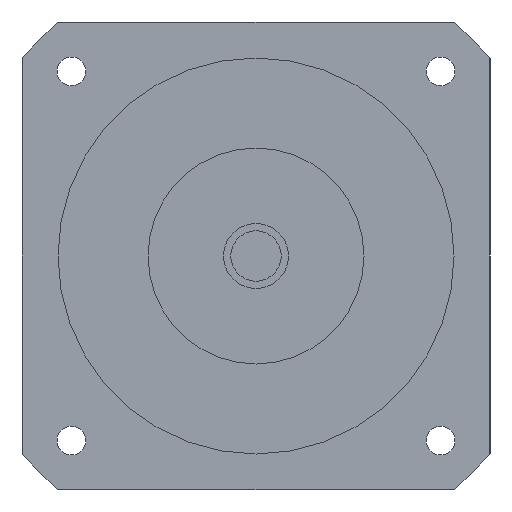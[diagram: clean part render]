
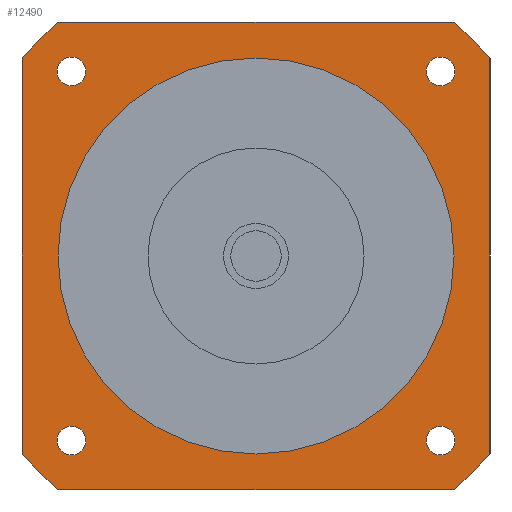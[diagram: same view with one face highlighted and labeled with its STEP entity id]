
A CAD part, left-side view. The second image highlights one B-rep face of the part: STEP entity #12490.
In plain terms, the highlighted planar face has unit normal (-1, 0, 0) as drawn and (0, 0, -1) by its records, which use the part's own axes.
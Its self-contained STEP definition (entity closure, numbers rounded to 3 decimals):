
#8890=CARTESIAN_POINT('',(47.265,-51.265,-51.));
#8900=VERTEX_POINT('',#8890);
#8930=CARTESIAN_POINT('',(51.265,-51.265,-51.));
#8940=DIRECTION('',(0.,0.,-1.));
#8950=DIRECTION('',(1.,0.,0.));
#8960=AXIS2_PLACEMENT_3D('',#8930,#8940,#8950);
#8970=CIRCLE('',#8960,4.);
#8980=CARTESIAN_POINT('',(55.265,-51.265,-51.));
#8990=VERTEX_POINT('',#8980);
#9000=EDGE_CURVE('',#8990,#8900,#8970,.T.);
#9240=CARTESIAN_POINT('',(65.,-54.772,-51.));
#9250=VERTEX_POINT('',#9240);
#9300=CARTESIAN_POINT('',(0.,0.,-51.
));
#9310=DIRECTION('',(0.,0.,-1.));
#9320=DIRECTION('',(1.,0.,0.));
#9330=AXIS2_PLACEMENT_3D('',#9300,#9310,#9320);
#9340=CIRCLE('',#9330,85.);
#9350=CARTESIAN_POINT('',(54.772,-65.,-51.));
#9360=VERTEX_POINT('',#9350);
#9370=EDGE_CURVE('',#9250,#9360,#9340,.T.);
#11020=CARTESIAN_POINT('',(-51.265,-47.265,-51.));
#11030=VERTEX_POINT('',#11020);
#11060=CARTESIAN_POINT('',(-51.265,-51.265,-51.));
#11070=DIRECTION('',(0.,0.,-1.));
#11080=DIRECTION('',(0.,-1.,0.));
#11090=AXIS2_PLACEMENT_3D('',#11060,#11070,#11080);
#11100=CIRCLE('',#11090,4.);
#11110=CARTESIAN_POINT('',(-51.265,-55.265,-51.));
#11120=VERTEX_POINT('',#11110);
#11130=EDGE_CURVE('',#11120,#11030,#11100,.T.);
#11250=CARTESIAN_POINT('',(65.,65.,-51.));
#11260=DIRECTION('',(0.,0.,-1.));
#11270=DIRECTION('',(1.,0.,0.));
#11280=AXIS2_PLACEMENT_3D('',#11250,#11260,#11270);
#11290=PLANE('',#11280);
#11300=ORIENTED_EDGE('',*,*,#11130,.F.);
#11310=EDGE_CURVE('',#11030,#11120,#11100,.T.);
#11320=ORIENTED_EDGE('',*,*,#11310,.F.);
#11330=EDGE_LOOP('',(#11320,#11300));
#11340=FACE_BOUND('',#11330,.T.);
#11350=CARTESIAN_POINT('',(-51.265,51.265,-51.));
#11360=DIRECTION('',(0.,0.,-1.));
#11370=DIRECTION('',(-1.,0.,0.));
#11380=AXIS2_PLACEMENT_3D('',#11350,#11360,#11370);
#11390=CIRCLE('',#11380,4.);
#11400=CARTESIAN_POINT('',(-55.265,51.265,-51.));
#11410=VERTEX_POINT('',#11400);
#11420=CARTESIAN_POINT('',(-47.265,51.265,-51.));
#11430=VERTEX_POINT('',#11420);
#11440=EDGE_CURVE('',#11410,#11430,#11390,.T.);
#11450=ORIENTED_EDGE('',*,*,#11440,.F.);
#11460=EDGE_CURVE('',#11430,#11410,#11390,.T.);
#11470=ORIENTED_EDGE('',*,*,#11460,.F.);
#11480=EDGE_LOOP('',(#11470,#11450));
#11490=FACE_BOUND('',#11480,.T.);
#11500=CARTESIAN_POINT('',(51.265,51.265,-51.));
#11510=DIRECTION('',(0.,0.,-1.));
#11520=DIRECTION('',(0.,1.,0.));
#11530=AXIS2_PLACEMENT_3D('',#11500,#11510,#11520);
#11540=CIRCLE('',#11530,4.);
#11550=CARTESIAN_POINT('',(51.265,55.265,-51.));
#11560=VERTEX_POINT('',#11550);
#11570=CARTESIAN_POINT('',(51.265,47.265,-51.));
#11580=VERTEX_POINT('',#11570);
#11590=EDGE_CURVE('',#11560,#11580,#11540,.T.);
#11600=ORIENTED_EDGE('',*,*,#11590,.F.);
#11610=EDGE_CURVE('',#11580,#11560,#11540,.T.);
#11620=ORIENTED_EDGE('',*,*,#11610,.F.);
#11630=EDGE_LOOP('',(#11620,#11600));
#11640=FACE_BOUND('',#11630,.T.);
#11650=CARTESIAN_POINT('',(0.,0.,
-51.));
#11660=DIRECTION('',(0.,0.,1.));
#11670=DIRECTION('',(0.,1.,0.));
#11680=AXIS2_PLACEMENT_3D('',#11650,#11660,#11670);
#11690=CIRCLE('',#11680,55.);
#11700=CARTESIAN_POINT('',(-55.,0.,-51.));
#11710=VERTEX_POINT('',#11700);
#11720=CARTESIAN_POINT('',(55.,0.,-51.));
#11730=VERTEX_POINT('',#11720);
#11740=EDGE_CURVE('',#11710,#11730,#11690,.T.);
#11750=ORIENTED_EDGE('',*,*,#11740,.T.);
#11760=CARTESIAN_POINT('',(0.,55.,-51.));
#11770=VERTEX_POINT('',#11760);
#11780=EDGE_CURVE('',#11770,#11710,#11690,.T.);
#11790=ORIENTED_EDGE('',*,*,#11780,.T.);
#11800=EDGE_CURVE('',#11730,#11770,#11690,.T.);
#11810=ORIENTED_EDGE('',*,*,#11800,.T.);
#11820=EDGE_LOOP('',(#11810,#11790,#11750));
#11830=FACE_BOUND('',#11820,.T.);
#11840=CARTESIAN_POINT('',(-65.,65.,-51.));
#11850=DIRECTION('',(1.,0.,0.));
#11860=VECTOR('',#11850,1000.);
#11870=LINE('',#11840,#11860);
#11880=CARTESIAN_POINT('',(-54.772,65.,-51.));
#11890=VERTEX_POINT('',#11880);
#11900=CARTESIAN_POINT('',(54.772,65.,-51.));
#11910=VERTEX_POINT('',#11900);
#11920=EDGE_CURVE('',#11890,#11910,#11870,.T.);
#11930=ORIENTED_EDGE('',*,*,#11920,.T.);
#11940=CARTESIAN_POINT('',(0.,0.,
-51.));
#11950=DIRECTION('',(0.,0.,-1.));
#11960=DIRECTION('',(1.,0.,0.));
#11970=AXIS2_PLACEMENT_3D('',#11940,#11950,#11960);
#11980=CIRCLE('',#11970,85.);
#11990=CARTESIAN_POINT('',(-65.,54.772,-51.));
#12000=VERTEX_POINT('',#11990);
#12010=EDGE_CURVE('',#12000,#11890,#11980,.T.);
#12020=ORIENTED_EDGE('',*,*,#12010,.T.);
#12030=CARTESIAN_POINT('',(-65.,-65.,-51.));
#12040=DIRECTION('',(0.,1.,0.));
#12050=VECTOR('',#12040,1000.);
#12060=LINE('',#12030,#12050);
#12070=CARTESIAN_POINT('',(-65.,-54.772,-51.));
#12080=VERTEX_POINT('',#12070);
#12090=EDGE_CURVE('',#12080,#12000,#12060,.T.);
#12100=ORIENTED_EDGE('',*,*,#12090,.T.);
#12110=CARTESIAN_POINT('',(0.,0.,
-51.));
#12120=DIRECTION('',(0.,0.,-1.));
#12130=DIRECTION('',(1.,0.,0.));
#12140=AXIS2_PLACEMENT_3D('',#12110,#12120,#12130);
#12150=CIRCLE('',#12140,85.);
#12160=CARTESIAN_POINT('',(-54.772,-65.,-51.));
#12170=VERTEX_POINT('',#12160);
#12180=EDGE_CURVE('',#12170,#12080,#12150,.T.);
#12190=ORIENTED_EDGE('',*,*,#12180,.T.);
#12200=CARTESIAN_POINT('',(65.,-65.,-51.));
#12210=DIRECTION('',(-1.,0.,0.));
#12220=VECTOR('',#12210,1000.);
#12230=LINE('',#12200,#12220);
#12240=EDGE_CURVE('',#9360,#12170,#12230,.T.);
#12250=ORIENTED_EDGE('',*,*,#12240,.T.);
#12260=ORIENTED_EDGE('',*,*,#9370,.T.);
#12270=CARTESIAN_POINT('',(65.,65.,-51.));
#12280=DIRECTION('',(0.,-1.,0.));
#12290=VECTOR('',#12280,1000.);
#12300=LINE('',#12270,#12290);
#12310=CARTESIAN_POINT('',(65.,54.772,-51.));
#12320=VERTEX_POINT('',#12310);
#12330=EDGE_CURVE('',#12320,#9250,#12300,.T.);
#12340=ORIENTED_EDGE('',*,*,#12330,.T.);
#12350=CARTESIAN_POINT('',(0.,0.,
-51.));
#12360=DIRECTION('',(0.,0.,-1.));
#12370=DIRECTION('',(1.,0.,0.));
#12380=AXIS2_PLACEMENT_3D('',#12350,#12360,#12370);
#12390=CIRCLE('',#12380,85.);
#12400=EDGE_CURVE('',#11910,#12320,#12390,.T.);
#12410=ORIENTED_EDGE('',*,*,#12400,.T.);
#12420=EDGE_LOOP('',(#12410,#12340,#12260,#12250,#12190,#12100,#12020,
#11930));
#12430=FACE_OUTER_BOUND('',#12420,.T.);
#12440=ORIENTED_EDGE('',*,*,#9000,.F.);
#12450=EDGE_CURVE('',#8900,#8990,#8970,.T.);
#12460=ORIENTED_EDGE('',*,*,#12450,.F.);
#12470=EDGE_LOOP('',(#12460,#12440));
#12480=FACE_BOUND('',#12470,.T.);
#12490=ADVANCED_FACE('',(#11340,#11490,#11640,#11830,#12430,#12480),
#11290,.T.);
